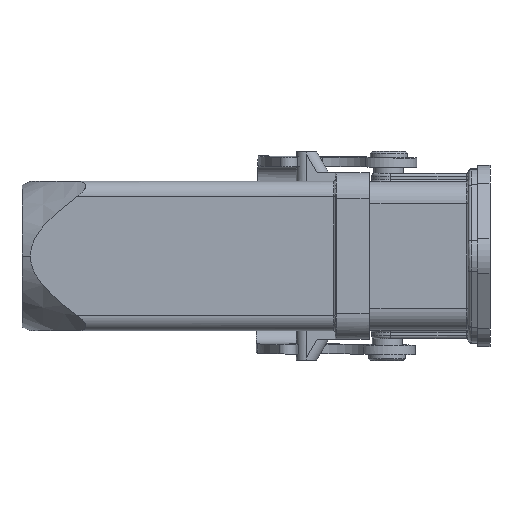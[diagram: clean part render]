
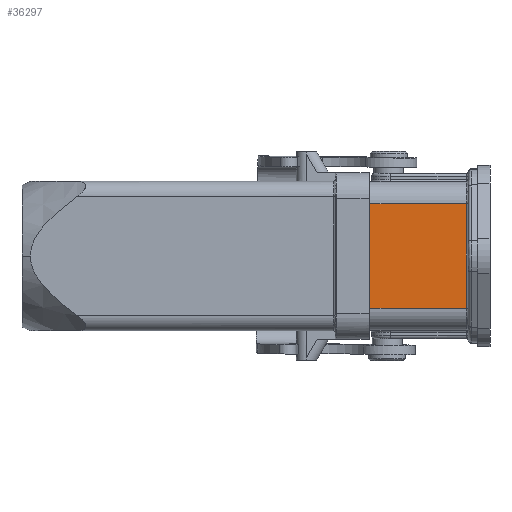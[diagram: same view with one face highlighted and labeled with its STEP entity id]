
A CAD part, left-side view. The second image highlights one B-rep face of the part: STEP entity #36297.
In plain terms, the highlighted planar face has unit normal (-1, 0, 0).
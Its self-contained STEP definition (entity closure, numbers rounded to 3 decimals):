
#170 = DIRECTION ( 'NONE',  ( 0., 0., 1. ) ) ;
#6823 = VERTEX_POINT ( 'NONE', #38170 ) ;
#6948 = FACE_OUTER_BOUND ( 'NONE', #22491, .T. ) ;
#7408 = EDGE_CURVE ( 'NONE', #6823, #25100, #37162, .T. ) ;
#8746 = ORIENTED_EDGE ( 'NONE', *, *, #17292, .F. ) ;
#10669 = DIRECTION ( 'NONE',  ( -1., 0., 0. ) ) ;
#13464 = CARTESIAN_POINT ( 'NONE',  ( -12., 2.8, -12. ) ) ;
#14766 = AXIS2_PLACEMENT_3D ( 'NONE', #23031, #10669, #42824 ) ;
#17071 = DIRECTION ( 'NONE',  ( 0., -1., 0. ) ) ;
#17238 = VECTOR ( 'NONE', #32944, 1000. ) ;
#17292 = EDGE_CURVE ( 'NONE', #35688, #46691, #35776, .T. ) ;
#17549 = CARTESIAN_POINT ( 'NONE',  ( -12., 22., 8.426 ) ) ;
#19463 = EDGE_CURVE ( 'NONE', #46691, #25100, #28918, .T. ) ;
#20726 = CARTESIAN_POINT ( 'NONE',  ( -12., 22., 0. ) ) ;
#21269 = CARTESIAN_POINT ( 'NONE',  ( -12., 22.086, 8.426 ) ) ;
#22491 = EDGE_LOOP ( 'NONE', ( #25855, #27340, #22733, #8746 ) ) ;
#22733 = ORIENTED_EDGE ( 'NONE', *, *, #19463, .F. ) ;
#23031 = CARTESIAN_POINT ( 'NONE',  ( -12., 2.5, -12. ) ) ;
#25100 = VERTEX_POINT ( 'NONE', #40690 ) ;
#25855 = ORIENTED_EDGE ( 'NONE', *, *, #28061, .T. ) ;
#25872 = VECTOR ( 'NONE', #50405, 1000. ) ;
#27340 = ORIENTED_EDGE ( 'NONE', *, *, #7408, .T. ) ;
#28061 = EDGE_CURVE ( 'NONE', #35688, #6823, #34826, .T. ) ;
#28918 = LINE ( 'NONE', #21269, #43362 ) ;
#32944 = DIRECTION ( 'NONE',  ( 0., 0., 1. ) ) ;
#34826 = LINE ( 'NONE', #43019, #25872 ) ;
#35688 = VERTEX_POINT ( 'NONE', #42414 ) ;
#35776 = LINE ( 'NONE', #20726, #41542 ) ;
#36297 = ADVANCED_FACE ( 'NONE', ( #6948 ), #51270, .T. ) ;
#37162 = LINE ( 'NONE', #13464, #17238 ) ;
#38170 = CARTESIAN_POINT ( 'NONE',  ( -12., 2.8, -8.426 ) ) ;
#40690 = CARTESIAN_POINT ( 'NONE',  ( -12., 2.8, 8.426 ) ) ;
#41542 = VECTOR ( 'NONE', #170, 1000. ) ;
#42414 = CARTESIAN_POINT ( 'NONE',  ( -12., 22., -8.426 ) ) ;
#42824 = DIRECTION ( 'NONE',  ( 0., 0., 1. ) ) ;
#43019 = CARTESIAN_POINT ( 'NONE',  ( -12., 2.5, -8.426 ) ) ;
#43362 = VECTOR ( 'NONE', #17071, 1000. ) ;
#46691 = VERTEX_POINT ( 'NONE', #17549 ) ;
#50405 = DIRECTION ( 'NONE',  ( 0., -1., 0. ) ) ;
#51270 = PLANE ( 'NONE',  #14766 ) ;
